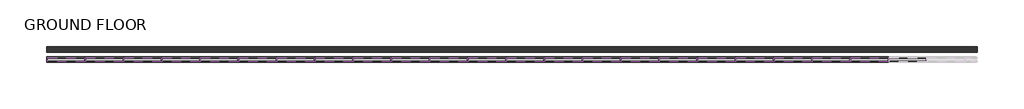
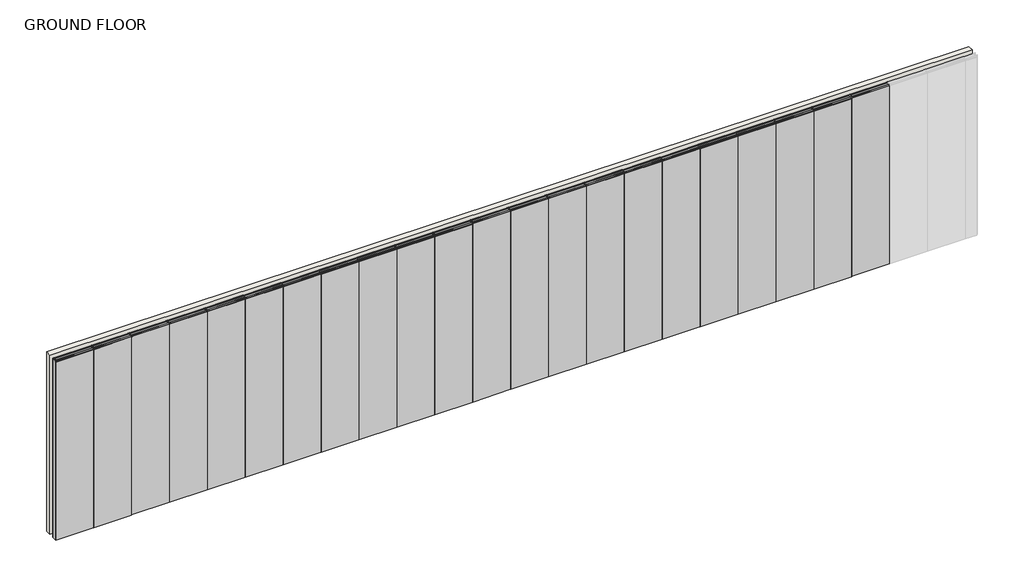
# One storey, part 1 of 2: 66 members, 22 plates, 1 wall.
"""IFC4 building model written with IfcOpenShell, lengths in millimetres."""

from ifc_helpers import new_model, si_unit, origin, origin_with_axes, place, context, project, spatial, polyline, outline, extrude, transform, mapped, element, save
from components import rectangular_mullion_stud_mullion_63mm_af775e70, rectangular_mullion_stud_mullion_63mm_2c4afd4c, rectangular_mullion_stud_mullion_63mm_ab3eab4e, rectangular_mullion_stud_mullion_63mm_08592bac, plate_2_layer_drywall_panels_2_layer_12mm_drywall_panels_e6e5b326

model = new_model("IFC4")

# Units and contexts
model_context = context("Model", 3, world=origin())
ifc_project = project(units=[si_unit("LENGTHUNIT", "METRE", prefix="MILLI")], contexts=[model_context])

# Site, building, storey
site = spatial("IfcSite", under=ifc_project)
building = spatial("IfcBuilding", under=site)
storey = spatial("IfcBuildingStorey", under=building, Name="GROUND FLOOR", Elevation=0.0)

# Members
placement = place(None, origin())
rectangular_mullion_stud_mullion_63mm_shape = rectangular_mullion_stud_mullion_63mm_af775e70(model_context)
element("IfcMember", 1, ObjectType="Rectangular Mullion : Stud Mullion - 63mm", at=placement, inside=storey, context=model_context, shape_type="MappedRepresentation", body=[
    mapped(rectangular_mullion_stud_mullion_63mm_shape, transform((61654.5186508, -19259.4010443, 0.0), x_axis=(0.0, 0.0, -1.0), y_axis=(0.0, -1.0, 0.0), z_axis=(-1.0, 0.0, 0.0))),
])
element("IfcMember", 2, ObjectType="Rectangular Mullion : Stud Mullion - 63mm", at=placement, inside=storey, context=model_context, shape_type="MappedRepresentation", body=[
    mapped(rectangular_mullion_stud_mullion_63mm_shape, transform((62254.5186511, -19259.4010443, 0.0), x_axis=(0.0, 0.0, -1.0), y_axis=(0.0, -1.0, 0.0), z_axis=(-1.0, 0.0, 0.0))),
])
element("IfcMember", 3, ObjectType="Rectangular Mullion : Stud Mullion - 63mm", at=placement, inside=storey, context=model_context, shape_type="MappedRepresentation", body=[
    mapped(rectangular_mullion_stud_mullion_63mm_shape, transform((62854.5186511, -19259.4010443, 0.0), x_axis=(0.0, 0.0, -1.0), y_axis=(0.0, -1.0, 0.0), z_axis=(-1.0, 0.0, 0.0))),
])
element("IfcMember", 4, ObjectType="Rectangular Mullion : Stud Mullion - 63mm", at=placement, inside=storey, context=model_context, shape_type="MappedRepresentation", body=[
    mapped(rectangular_mullion_stud_mullion_63mm_shape, transform((63454.5186511, -19259.4010443, 0.0), x_axis=(0.0, 0.0, -1.0), y_axis=(0.0, -1.0, 0.0), z_axis=(-1.0, 0.0, 0.0))),
])
element("IfcMember", 5, ObjectType="Rectangular Mullion : Stud Mullion - 63mm", at=placement, inside=storey, context=model_context, shape_type="MappedRepresentation", body=[
    mapped(rectangular_mullion_stud_mullion_63mm_shape, transform((64054.5186511, -19259.4010443, 0.0), x_axis=(0.0, 0.0, -1.0), y_axis=(0.0, -1.0, 0.0), z_axis=(-1.0, 0.0, 0.0))),
])
element("IfcMember", 6, ObjectType="Rectangular Mullion : Stud Mullion - 63mm", at=placement, inside=storey, context=model_context, shape_type="MappedRepresentation", body=[
    mapped(rectangular_mullion_stud_mullion_63mm_shape, transform((64654.5186511, -19259.4010443, 0.0), x_axis=(0.0, 0.0, -1.0), y_axis=(0.0, -1.0, 0.0), z_axis=(-1.0, 0.0, 0.0))),
])
element("IfcMember", 7, ObjectType="Rectangular Mullion : Stud Mullion - 63mm", at=placement, inside=storey, context=model_context, shape_type="MappedRepresentation", body=[
    mapped(rectangular_mullion_stud_mullion_63mm_shape, transform((65254.5186511, -19259.4010443, 0.0), x_axis=(0.0, 0.0, -1.0), y_axis=(0.0, -1.0, 0.0), z_axis=(-1.0, 0.0, 0.0))),
])
element("IfcMember", 8, ObjectType="Rectangular Mullion : Stud Mullion - 63mm", at=placement, inside=storey, context=model_context, shape_type="MappedRepresentation", body=[
    mapped(rectangular_mullion_stud_mullion_63mm_shape, transform((65854.5186511, -19259.4010443, 0.0), x_axis=(0.0, 0.0, -1.0), y_axis=(0.0, -1.0, 0.0), z_axis=(-1.0, 0.0, 0.0))),
])
element("IfcMember", 9, ObjectType="Rectangular Mullion : Stud Mullion - 63mm", at=placement, inside=storey, context=model_context, shape_type="MappedRepresentation", body=[
    mapped(rectangular_mullion_stud_mullion_63mm_shape, transform((66454.5186511, -19259.4010443, 0.0), x_axis=(0.0, 0.0, -1.0), y_axis=(0.0, -1.0, 0.0), z_axis=(-1.0, 0.0, 0.0))),
])
element("IfcMember", 10, ObjectType="Rectangular Mullion : Stud Mullion - 63mm", at=placement, inside=storey, context=model_context, shape_type="MappedRepresentation", body=[
    mapped(rectangular_mullion_stud_mullion_63mm_shape, transform((67054.5186511, -19259.4010443, 0.0), x_axis=(0.0, 0.0, -1.0), y_axis=(0.0, -1.0, 0.0), z_axis=(-1.0, 0.0, 0.0))),
])
element("IfcMember", 11, ObjectType="Rectangular Mullion : Stud Mullion - 63mm", at=placement, inside=storey, context=model_context, shape_type="MappedRepresentation", body=[
    mapped(rectangular_mullion_stud_mullion_63mm_shape, transform((67654.5186511, -19259.4010443, 0.0), x_axis=(0.0, 0.0, -1.0), y_axis=(0.0, -1.0, 0.0), z_axis=(-1.0, 0.0, 0.0))),
])
element("IfcMember", 12, ObjectType="Rectangular Mullion : Stud Mullion - 63mm", at=placement, inside=storey, context=model_context, shape_type="MappedRepresentation", body=[
    mapped(rectangular_mullion_stud_mullion_63mm_shape, transform((68254.5186511, -19259.4010443, 0.0), x_axis=(0.0, 0.0, -1.0), y_axis=(0.0, -1.0, 0.0), z_axis=(-1.0, 0.0, 0.0))),
])
element("IfcMember", 13, ObjectType="Rectangular Mullion : Stud Mullion - 63mm", at=placement, inside=storey, context=model_context, shape_type="MappedRepresentation", body=[
    mapped(rectangular_mullion_stud_mullion_63mm_shape, transform((68854.5186511, -19259.4010443, 0.0), x_axis=(0.0, 0.0, -1.0), y_axis=(0.0, -1.0, 0.0), z_axis=(-1.0, 0.0, 0.0))),
])
element("IfcMember", 14, ObjectType="Rectangular Mullion : Stud Mullion - 63mm", at=placement, inside=storey, context=model_context, shape_type="MappedRepresentation", body=[
    mapped(rectangular_mullion_stud_mullion_63mm_shape, transform((69454.5186511, -19259.4010443, 0.0), x_axis=(0.0, 0.0, -1.0), y_axis=(0.0, -1.0, 0.0), z_axis=(-1.0, 0.0, 0.0))),
])
element("IfcMember", 15, ObjectType="Rectangular Mullion : Stud Mullion - 63mm", at=placement, inside=storey, context=model_context, shape_type="MappedRepresentation", body=[
    mapped(rectangular_mullion_stud_mullion_63mm_shape, transform((70054.5186511, -19259.4010443, 0.0), x_axis=(0.0, 0.0, -1.0), y_axis=(0.0, -1.0, 0.0), z_axis=(-1.0, 0.0, 0.0))),
])
element("IfcMember", 16, ObjectType="Rectangular Mullion : Stud Mullion - 63mm", at=placement, inside=storey, context=model_context, shape_type="MappedRepresentation", body=[
    mapped(rectangular_mullion_stud_mullion_63mm_shape, transform((70654.5186511, -19259.4010443, 0.0), x_axis=(0.0, 0.0, -1.0), y_axis=(0.0, -1.0, 0.0), z_axis=(-1.0, 0.0, 0.0))),
])
element("IfcMember", 17, ObjectType="Rectangular Mullion : Stud Mullion - 63mm", at=placement, inside=storey, context=model_context, shape_type="MappedRepresentation", body=[
    mapped(rectangular_mullion_stud_mullion_63mm_shape, transform((71254.5186511, -19259.4010443, 0.0), x_axis=(0.0, 0.0, -1.0), y_axis=(0.0, -1.0, 0.0), z_axis=(-1.0, 0.0, 0.0))),
])
element("IfcMember", 18, ObjectType="Rectangular Mullion : Stud Mullion - 63mm", at=placement, inside=storey, context=model_context, shape_type="MappedRepresentation", body=[
    mapped(rectangular_mullion_stud_mullion_63mm_shape, transform((71854.5186511, -19259.4010443, 0.0), x_axis=(0.0, 0.0, -1.0), y_axis=(0.0, -1.0, 0.0), z_axis=(-1.0, 0.0, 0.0))),
])
element("IfcMember", 19, ObjectType="Rectangular Mullion : Stud Mullion - 63mm", at=placement, inside=storey, context=model_context, shape_type="MappedRepresentation", body=[
    mapped(rectangular_mullion_stud_mullion_63mm_shape, transform((72454.5186511, -19259.4010443, 0.0), x_axis=(0.0, 0.0, -1.0), y_axis=(0.0, -1.0, 0.0), z_axis=(-1.0, 0.0, 0.0))),
])
element("IfcMember", 20, ObjectType="Rectangular Mullion : Stud Mullion - 63mm", at=placement, inside=storey, context=model_context, shape_type="MappedRepresentation", body=[
    mapped(rectangular_mullion_stud_mullion_63mm_shape, transform((73054.5186511, -19259.4010443, 0.0), x_axis=(0.0, 0.0, -1.0), y_axis=(0.0, -1.0, 0.0), z_axis=(-1.0, 0.0, 0.0))),
])
element("IfcMember", 21, ObjectType="Rectangular Mullion : Stud Mullion - 63mm", at=placement, inside=storey, context=model_context, shape_type="MappedRepresentation", body=[
    mapped(rectangular_mullion_stud_mullion_63mm_shape, transform((73654.5186511, -19259.4010443, 0.0), x_axis=(0.0, 0.0, -1.0), y_axis=(0.0, -1.0, 0.0), z_axis=(-1.0, 0.0, 0.0))),
])
element("IfcMember", 22, ObjectType="Rectangular Mullion : Stud Mullion - 63mm", at=placement, inside=storey, context=model_context, shape_type="MappedRepresentation", body=[
    mapped(rectangular_mullion_stud_mullion_63mm_shape, transform((74254.5186511, -19259.4010443, 0.0), x_axis=(0.0, 0.0, -1.0), y_axis=(0.0, -1.0, 0.0), z_axis=(-1.0, 0.0, 0.0))),
])
element("IfcMember", 23, ObjectType="Rectangular Mullion : Stud Mullion - 63mm", at=placement, inside=storey, context=model_context, shape_type="MappedRepresentation", body=[
    mapped(rectangular_mullion_stud_mullion_63mm_shape, transform((74854.5186511, -19259.4010443, 0.0), x_axis=(0.0, 0.0, -1.0), y_axis=(0.0, -1.0, 0.0), z_axis=(-1.0, 0.0, 0.0))),
])
rectangular_mullion_stud_mullion_63mm_2_shape = rectangular_mullion_stud_mullion_63mm_2c4afd4c(model_context)
element("IfcMember", 24, ObjectType="Rectangular Mullion : Stud Mullion - 63mm", at=placement, inside=storey, context=model_context, shape_type="MappedRepresentation", body=[
    mapped(rectangular_mullion_stud_mullion_63mm_2_shape, transform((61635.5186508, -19259.4010443, 3000.0), x_axis=(-1.0, 0.0, 0.0), y_axis=(0.0, -1.0, 0.0), z_axis=(0.0, 0.0, 1.0))),
])
rectangular_mullion_stud_mullion_63mm_3_shape = rectangular_mullion_stud_mullion_63mm_ab3eab4e(model_context)
element("IfcMember", 25, ObjectType="Rectangular Mullion : Stud Mullion - 63mm", at=placement, inside=storey, context=model_context, shape_type="MappedRepresentation", body=[
    mapped(rectangular_mullion_stud_mullion_63mm_3_shape, transform((62235.5186511, -19259.4010443, 3000.0), x_axis=(0.0, 0.0, 1.0), y_axis=(0.0, -1.0, 0.0), z_axis=(1.0, 0.0, 0.0))),
])
element("IfcMember", 26, ObjectType="Rectangular Mullion : Stud Mullion - 63mm", at=placement, inside=storey, context=model_context, shape_type="MappedRepresentation", body=[
    mapped(rectangular_mullion_stud_mullion_63mm_3_shape, transform((62835.5186511, -19259.4010443, 3000.0), x_axis=(0.0, 0.0, 1.0), y_axis=(0.0, -1.0, 0.0), z_axis=(1.0, 0.0, 0.0))),
])
element("IfcMember", 27, ObjectType="Rectangular Mullion : Stud Mullion - 63mm", at=placement, inside=storey, context=model_context, shape_type="MappedRepresentation", body=[
    mapped(rectangular_mullion_stud_mullion_63mm_3_shape, transform((63435.5186511, -19259.4010443, 3000.0), x_axis=(0.0, 0.0, 1.0), y_axis=(0.0, -1.0, 0.0), z_axis=(1.0, 0.0, 0.0))),
])
element("IfcMember", 28, ObjectType="Rectangular Mullion : Stud Mullion - 63mm", at=placement, inside=storey, context=model_context, shape_type="MappedRepresentation", body=[
    mapped(rectangular_mullion_stud_mullion_63mm_3_shape, transform((64035.5186511, -19259.4010443, 3000.0), x_axis=(0.0, 0.0, 1.0), y_axis=(0.0, -1.0, 0.0), z_axis=(1.0, 0.0, 0.0))),
])
element("IfcMember", 29, ObjectType="Rectangular Mullion : Stud Mullion - 63mm", at=placement, inside=storey, context=model_context, shape_type="MappedRepresentation", body=[
    mapped(rectangular_mullion_stud_mullion_63mm_3_shape, transform((64635.5186511, -19259.4010443, 3000.0), x_axis=(0.0, 0.0, 1.0), y_axis=(0.0, -1.0, 0.0), z_axis=(1.0, 0.0, 0.0))),
])
element("IfcMember", 30, ObjectType="Rectangular Mullion : Stud Mullion - 63mm", at=placement, inside=storey, context=model_context, shape_type="MappedRepresentation", body=[
    mapped(rectangular_mullion_stud_mullion_63mm_3_shape, transform((65235.5186511, -19259.4010443, 3000.0), x_axis=(0.0, 0.0, 1.0), y_axis=(0.0, -1.0, 0.0), z_axis=(1.0, 0.0, 0.0))),
])
element("IfcMember", 31, ObjectType="Rectangular Mullion : Stud Mullion - 63mm", at=placement, inside=storey, context=model_context, shape_type="MappedRepresentation", body=[
    mapped(rectangular_mullion_stud_mullion_63mm_3_shape, transform((65835.5186511, -19259.4010443, 3000.0), x_axis=(0.0, 0.0, 1.0), y_axis=(0.0, -1.0, 0.0), z_axis=(1.0, 0.0, 0.0))),
])
element("IfcMember", 32, ObjectType="Rectangular Mullion : Stud Mullion - 63mm", at=placement, inside=storey, context=model_context, shape_type="MappedRepresentation", body=[
    mapped(rectangular_mullion_stud_mullion_63mm_3_shape, transform((66435.5186511, -19259.4010443, 3000.0), x_axis=(0.0, 0.0, 1.0), y_axis=(0.0, -1.0, 0.0), z_axis=(1.0, 0.0, 0.0))),
])
element("IfcMember", 33, ObjectType="Rectangular Mullion : Stud Mullion - 63mm", at=placement, inside=storey, context=model_context, shape_type="MappedRepresentation", body=[
    mapped(rectangular_mullion_stud_mullion_63mm_3_shape, transform((67035.5186511, -19259.4010443, 3000.0), x_axis=(0.0, 0.0, 1.0), y_axis=(0.0, -1.0, 0.0), z_axis=(1.0, 0.0, 0.0))),
])
element("IfcMember", 34, ObjectType="Rectangular Mullion : Stud Mullion - 63mm", at=placement, inside=storey, context=model_context, shape_type="MappedRepresentation", body=[
    mapped(rectangular_mullion_stud_mullion_63mm_3_shape, transform((67635.5186511, -19259.4010443, 3000.0), x_axis=(0.0, 0.0, 1.0), y_axis=(0.0, -1.0, 0.0), z_axis=(1.0, 0.0, 0.0))),
])
element("IfcMember", 35, ObjectType="Rectangular Mullion : Stud Mullion - 63mm", at=placement, inside=storey, context=model_context, shape_type="MappedRepresentation", body=[
    mapped(rectangular_mullion_stud_mullion_63mm_3_shape, transform((68235.5186511, -19259.4010443, 3000.0), x_axis=(0.0, 0.0, 1.0), y_axis=(0.0, -1.0, 0.0), z_axis=(1.0, 0.0, 0.0))),
])
element("IfcMember", 36, ObjectType="Rectangular Mullion : Stud Mullion - 63mm", at=placement, inside=storey, context=model_context, shape_type="MappedRepresentation", body=[
    mapped(rectangular_mullion_stud_mullion_63mm_3_shape, transform((68835.5186511, -19259.4010443, 3000.0), x_axis=(0.0, 0.0, 1.0), y_axis=(0.0, -1.0, 0.0), z_axis=(1.0, 0.0, 0.0))),
])
element("IfcMember", 37, ObjectType="Rectangular Mullion : Stud Mullion - 63mm", at=placement, inside=storey, context=model_context, shape_type="MappedRepresentation", body=[
    mapped(rectangular_mullion_stud_mullion_63mm_3_shape, transform((69435.5186511, -19259.4010443, 3000.0), x_axis=(0.0, 0.0, 1.0), y_axis=(0.0, -1.0, 0.0), z_axis=(1.0, 0.0, 0.0))),
])
element("IfcMember", 38, ObjectType="Rectangular Mullion : Stud Mullion - 63mm", at=placement, inside=storey, context=model_context, shape_type="MappedRepresentation", body=[
    mapped(rectangular_mullion_stud_mullion_63mm_3_shape, transform((70035.5186511, -19259.4010443, 3000.0), x_axis=(0.0, 0.0, 1.0), y_axis=(0.0, -1.0, 0.0), z_axis=(1.0, 0.0, 0.0))),
])
element("IfcMember", 39, ObjectType="Rectangular Mullion : Stud Mullion - 63mm", at=placement, inside=storey, context=model_context, shape_type="MappedRepresentation", body=[
    mapped(rectangular_mullion_stud_mullion_63mm_3_shape, transform((70635.5186511, -19259.4010443, 3000.0), x_axis=(0.0, 0.0, 1.0), y_axis=(0.0, -1.0, 0.0), z_axis=(1.0, 0.0, 0.0))),
])
element("IfcMember", 40, ObjectType="Rectangular Mullion : Stud Mullion - 63mm", at=placement, inside=storey, context=model_context, shape_type="MappedRepresentation", body=[
    mapped(rectangular_mullion_stud_mullion_63mm_3_shape, transform((71235.5186511, -19259.4010443, 3000.0), x_axis=(0.0, 0.0, 1.0), y_axis=(0.0, -1.0, 0.0), z_axis=(1.0, 0.0, 0.0))),
])
element("IfcMember", 41, ObjectType="Rectangular Mullion : Stud Mullion - 63mm", at=placement, inside=storey, context=model_context, shape_type="MappedRepresentation", body=[
    mapped(rectangular_mullion_stud_mullion_63mm_3_shape, transform((71835.5186511, -19259.4010443, 3000.0), x_axis=(0.0, 0.0, 1.0), y_axis=(0.0, -1.0, 0.0), z_axis=(1.0, 0.0, 0.0))),
])
element("IfcMember", 42, ObjectType="Rectangular Mullion : Stud Mullion - 63mm", at=placement, inside=storey, context=model_context, shape_type="MappedRepresentation", body=[
    mapped(rectangular_mullion_stud_mullion_63mm_3_shape, transform((72435.5186511, -19259.4010443, 3000.0), x_axis=(0.0, 0.0, 1.0), y_axis=(0.0, -1.0, 0.0), z_axis=(1.0, 0.0, 0.0))),
])
element("IfcMember", 43, ObjectType="Rectangular Mullion : Stud Mullion - 63mm", at=placement, inside=storey, context=model_context, shape_type="MappedRepresentation", body=[
    mapped(rectangular_mullion_stud_mullion_63mm_3_shape, transform((73035.5186511, -19259.4010443, 3000.0), x_axis=(0.0, 0.0, 1.0), y_axis=(0.0, -1.0, 0.0), z_axis=(1.0, 0.0, 0.0))),
])
element("IfcMember", 44, ObjectType="Rectangular Mullion : Stud Mullion - 63mm", at=placement, inside=storey, context=model_context, shape_type="MappedRepresentation", body=[
    mapped(rectangular_mullion_stud_mullion_63mm_3_shape, transform((73635.5186511, -19259.4010443, 3000.0), x_axis=(0.0, 0.0, 1.0), y_axis=(0.0, -1.0, 0.0), z_axis=(1.0, 0.0, 0.0))),
])
element("IfcMember", 45, ObjectType="Rectangular Mullion : Stud Mullion - 63mm", at=placement, inside=storey, context=model_context, shape_type="MappedRepresentation", body=[
    mapped(rectangular_mullion_stud_mullion_63mm_3_shape, transform((74235.5186511, -19259.4010443, 3000.0), x_axis=(0.0, 0.0, 1.0), y_axis=(0.0, -1.0, 0.0), z_axis=(1.0, 0.0, 0.0))),
])
element("IfcMember", 46, ObjectType="Rectangular Mullion : Stud Mullion - 63mm", at=placement, inside=storey, context=model_context, shape_type="MappedRepresentation", body=[
    mapped(rectangular_mullion_stud_mullion_63mm_3_shape, transform((74835.5186511, -19259.4010443, 3000.0), x_axis=(0.0, 0.0, 1.0), y_axis=(0.0, -1.0, 0.0), z_axis=(1.0, 0.0, 0.0))),
])
rectangular_mullion_stud_mullion_63mm_4_shape = rectangular_mullion_stud_mullion_63mm_08592bac(model_context)
element("IfcMember", 47, ObjectType="Rectangular Mullion : Stud Mullion - 63mm", at=placement, inside=storey, context=model_context, shape_type="MappedRepresentation", body=[
    mapped(rectangular_mullion_stud_mullion_63mm_4_shape, transform((62245.0186511, -19259.4010443, 0.0), x_axis=(1.0, 0.0, 0.0), y_axis=(0.0, -1.0, 0.0), z_axis=(0.0, 0.0, -1.0))),
])
element("IfcMember", 48, ObjectType="Rectangular Mullion : Stud Mullion - 63mm", at=placement, inside=storey, context=model_context, shape_type="MappedRepresentation", body=[
    mapped(rectangular_mullion_stud_mullion_63mm_4_shape, transform((62845.0186511, -19259.4010443, 0.0), x_axis=(1.0, 0.0, 0.0), y_axis=(0.0, -1.0, 0.0), z_axis=(0.0, 0.0, -1.0))),
])
element("IfcMember", 49, ObjectType="Rectangular Mullion : Stud Mullion - 63mm", at=placement, inside=storey, context=model_context, shape_type="MappedRepresentation", body=[
    mapped(rectangular_mullion_stud_mullion_63mm_4_shape, transform((63445.0186511, -19259.4010443, 0.0), x_axis=(1.0, 0.0, 0.0), y_axis=(0.0, -1.0, 0.0), z_axis=(0.0, 0.0, -1.0))),
])
element("IfcMember", 50, ObjectType="Rectangular Mullion : Stud Mullion - 63mm", at=placement, inside=storey, context=model_context, shape_type="MappedRepresentation", body=[
    mapped(rectangular_mullion_stud_mullion_63mm_4_shape, transform((64045.0186511, -19259.4010443, 0.0), x_axis=(1.0, 0.0, 0.0), y_axis=(0.0, -1.0, 0.0), z_axis=(0.0, 0.0, -1.0))),
])
element("IfcMember", 51, ObjectType="Rectangular Mullion : Stud Mullion - 63mm", at=placement, inside=storey, context=model_context, shape_type="MappedRepresentation", body=[
    mapped(rectangular_mullion_stud_mullion_63mm_4_shape, transform((64645.0186511, -19259.4010443, 0.0), x_axis=(1.0, 0.0, 0.0), y_axis=(0.0, -1.0, 0.0), z_axis=(0.0, 0.0, -1.0))),
])
element("IfcMember", 52, ObjectType="Rectangular Mullion : Stud Mullion - 63mm", at=placement, inside=storey, context=model_context, shape_type="MappedRepresentation", body=[
    mapped(rectangular_mullion_stud_mullion_63mm_4_shape, transform((65245.0186511, -19259.4010443, 0.0), x_axis=(1.0, 0.0, 0.0), y_axis=(0.0, -1.0, 0.0), z_axis=(0.0, 0.0, -1.0))),
])
element("IfcMember", 53, ObjectType="Rectangular Mullion : Stud Mullion - 63mm", at=placement, inside=storey, context=model_context, shape_type="MappedRepresentation", body=[
    mapped(rectangular_mullion_stud_mullion_63mm_4_shape, transform((65845.0186511, -19259.4010443, 0.0), x_axis=(1.0, 0.0, 0.0), y_axis=(0.0, -1.0, 0.0), z_axis=(0.0, 0.0, -1.0))),
])
element("IfcMember", 54, ObjectType="Rectangular Mullion : Stud Mullion - 63mm", at=placement, inside=storey, context=model_context, shape_type="MappedRepresentation", body=[
    mapped(rectangular_mullion_stud_mullion_63mm_4_shape, transform((66445.0186511, -19259.4010443, 0.0), x_axis=(1.0, 0.0, 0.0), y_axis=(0.0, -1.0, 0.0), z_axis=(0.0, 0.0, -1.0))),
])
element("IfcMember", 55, ObjectType="Rectangular Mullion : Stud Mullion - 63mm", at=placement, inside=storey, context=model_context, shape_type="MappedRepresentation", body=[
    mapped(rectangular_mullion_stud_mullion_63mm_4_shape, transform((67045.0186511, -19259.4010443, 0.0), x_axis=(1.0, 0.0, 0.0), y_axis=(0.0, -1.0, 0.0), z_axis=(0.0, 0.0, -1.0))),
])
element("IfcMember", 56, ObjectType="Rectangular Mullion : Stud Mullion - 63mm", at=placement, inside=storey, context=model_context, shape_type="MappedRepresentation", body=[
    mapped(rectangular_mullion_stud_mullion_63mm_4_shape, transform((67645.0186511, -19259.4010443, 0.0), x_axis=(1.0, 0.0, 0.0), y_axis=(0.0, -1.0, 0.0), z_axis=(0.0, 0.0, -1.0))),
])
element("IfcMember", 57, ObjectType="Rectangular Mullion : Stud Mullion - 63mm", at=placement, inside=storey, context=model_context, shape_type="MappedRepresentation", body=[
    mapped(rectangular_mullion_stud_mullion_63mm_4_shape, transform((68245.0186511, -19259.4010443, 0.0), x_axis=(1.0, 0.0, 0.0), y_axis=(0.0, -1.0, 0.0), z_axis=(0.0, 0.0, -1.0))),
])
element("IfcMember", 58, ObjectType="Rectangular Mullion : Stud Mullion - 63mm", at=placement, inside=storey, context=model_context, shape_type="MappedRepresentation", body=[
    mapped(rectangular_mullion_stud_mullion_63mm_4_shape, transform((68845.0186511, -19259.4010443, 0.0), x_axis=(1.0, 0.0, 0.0), y_axis=(0.0, -1.0, 0.0), z_axis=(0.0, 0.0, -1.0))),
])
element("IfcMember", 59, ObjectType="Rectangular Mullion : Stud Mullion - 63mm", at=placement, inside=storey, context=model_context, shape_type="MappedRepresentation", body=[
    mapped(rectangular_mullion_stud_mullion_63mm_4_shape, transform((69445.0186511, -19259.4010443, 0.0), x_axis=(1.0, 0.0, 0.0), y_axis=(0.0, -1.0, 0.0), z_axis=(0.0, 0.0, -1.0))),
])
element("IfcMember", 60, ObjectType="Rectangular Mullion : Stud Mullion - 63mm", at=placement, inside=storey, context=model_context, shape_type="MappedRepresentation", body=[
    mapped(rectangular_mullion_stud_mullion_63mm_4_shape, transform((70045.0186511, -19259.4010443, 0.0), x_axis=(1.0, 0.0, 0.0), y_axis=(0.0, -1.0, 0.0), z_axis=(0.0, 0.0, -1.0))),
])
element("IfcMember", 61, ObjectType="Rectangular Mullion : Stud Mullion - 63mm", at=placement, inside=storey, context=model_context, shape_type="MappedRepresentation", body=[
    mapped(rectangular_mullion_stud_mullion_63mm_4_shape, transform((70645.0186511, -19259.4010443, 0.0), x_axis=(1.0, 0.0, 0.0), y_axis=(0.0, -1.0, 0.0), z_axis=(0.0, 0.0, -1.0))),
])
element("IfcMember", 62, ObjectType="Rectangular Mullion : Stud Mullion - 63mm", at=placement, inside=storey, context=model_context, shape_type="MappedRepresentation", body=[
    mapped(rectangular_mullion_stud_mullion_63mm_4_shape, transform((71245.0186511, -19259.4010443, 0.0), x_axis=(1.0, 0.0, 0.0), y_axis=(0.0, -1.0, 0.0), z_axis=(0.0, 0.0, -1.0))),
])
element("IfcMember", 63, ObjectType="Rectangular Mullion : Stud Mullion - 63mm", at=placement, inside=storey, context=model_context, shape_type="MappedRepresentation", body=[
    mapped(rectangular_mullion_stud_mullion_63mm_4_shape, transform((71845.0186511, -19259.4010443, 0.0), x_axis=(1.0, 0.0, 0.0), y_axis=(0.0, -1.0, 0.0), z_axis=(0.0, 0.0, -1.0))),
])
element("IfcMember", 64, ObjectType="Rectangular Mullion : Stud Mullion - 63mm", at=placement, inside=storey, context=model_context, shape_type="MappedRepresentation", body=[
    mapped(rectangular_mullion_stud_mullion_63mm_4_shape, transform((72445.0186511, -19259.4010443, 0.0), x_axis=(1.0, 0.0, 0.0), y_axis=(0.0, -1.0, 0.0), z_axis=(0.0, 0.0, -1.0))),
])
element("IfcMember", 65, ObjectType="Rectangular Mullion : Stud Mullion - 63mm", at=placement, inside=storey, context=model_context, shape_type="MappedRepresentation", body=[
    mapped(rectangular_mullion_stud_mullion_63mm_4_shape, transform((73045.0186511, -19259.4010443, 0.0), x_axis=(1.0, 0.0, 0.0), y_axis=(0.0, -1.0, 0.0), z_axis=(0.0, 0.0, -1.0))),
])
element("IfcMember", 66, ObjectType="Rectangular Mullion : Stud Mullion - 63mm", at=placement, inside=storey, context=model_context, shape_type="MappedRepresentation", body=[
    mapped(rectangular_mullion_stud_mullion_63mm_4_shape, transform((73645.0186511, -19259.4010443, 0.0), x_axis=(1.0, 0.0, 0.0), y_axis=(0.0, -1.0, 0.0), z_axis=(0.0, 0.0, -1.0))),
])

# Plates
plate_2_layer_drywall_panels_2_layer_12mm_drywall_panels_shape = plate_2_layer_drywall_panels_2_layer_12mm_drywall_panels_e6e5b326(model_context)
element("IfcPlate", 67, ObjectType="2 Layer - Drywall Panels : 2 Layer - 12mm Drywall Panels 89mm", at=placement, inside=storey, context=model_context, shape_type="MappedRepresentation", body=[
    mapped(plate_2_layer_drywall_panels_2_layer_12mm_drywall_panels_shape, transform((61936.318651, -19259.4010443, 1.6), x_axis=(1.0, 0.0, 0.0), y_axis=(0.0, 1.0, 0.0), z_axis=(0.0, 0.0, 1.0))),
])
element("IfcPlate", 68, ObjectType="2 Layer - Drywall Panels : 2 Layer - 12mm Drywall Panels 89mm", at=placement, inside=storey, context=model_context, shape_type="MappedRepresentation", body=[
    mapped(plate_2_layer_drywall_panels_2_layer_12mm_drywall_panels_shape, transform((62536.3186511, -19259.4010443, 1.6), x_axis=(1.0, 0.0, 0.0), y_axis=(0.0, 1.0, 0.0), z_axis=(0.0, 0.0, 1.0))),
])
element("IfcPlate", 69, ObjectType="2 Layer - Drywall Panels : 2 Layer - 12mm Drywall Panels 89mm", at=placement, inside=storey, context=model_context, shape_type="MappedRepresentation", body=[
    mapped(plate_2_layer_drywall_panels_2_layer_12mm_drywall_panels_shape, transform((63136.3186511, -19259.4010443, 1.6), x_axis=(1.0, 0.0, 0.0), y_axis=(0.0, 1.0, 0.0), z_axis=(0.0, 0.0, 1.0))),
])
element("IfcPlate", 70, ObjectType="2 Layer - Drywall Panels : 2 Layer - 12mm Drywall Panels 89mm", at=placement, inside=storey, context=model_context, shape_type="MappedRepresentation", body=[
    mapped(plate_2_layer_drywall_panels_2_layer_12mm_drywall_panels_shape, transform((63736.3186511, -19259.4010443, 1.6), x_axis=(1.0, 0.0, 0.0), y_axis=(0.0, 1.0, 0.0), z_axis=(0.0, 0.0, 1.0))),
])
element("IfcPlate", 71, ObjectType="2 Layer - Drywall Panels : 2 Layer - 12mm Drywall Panels 89mm", at=placement, inside=storey, context=model_context, shape_type="MappedRepresentation", body=[
    mapped(plate_2_layer_drywall_panels_2_layer_12mm_drywall_panels_shape, transform((64336.3186511, -19259.4010443, 1.6), x_axis=(1.0, 0.0, 0.0), y_axis=(0.0, 1.0, 0.0), z_axis=(0.0, 0.0, 1.0))),
])
element("IfcPlate", 72, ObjectType="2 Layer - Drywall Panels : 2 Layer - 12mm Drywall Panels 89mm", at=placement, inside=storey, context=model_context, shape_type="MappedRepresentation", body=[
    mapped(plate_2_layer_drywall_panels_2_layer_12mm_drywall_panels_shape, transform((64936.3186511, -19259.4010443, 1.6), x_axis=(1.0, 0.0, 0.0), y_axis=(0.0, 1.0, 0.0), z_axis=(0.0, 0.0, 1.0))),
])
element("IfcPlate", 73, ObjectType="2 Layer - Drywall Panels : 2 Layer - 12mm Drywall Panels 89mm", at=placement, inside=storey, context=model_context, shape_type="MappedRepresentation", body=[
    mapped(plate_2_layer_drywall_panels_2_layer_12mm_drywall_panels_shape, transform((65536.3186511, -19259.4010443, 1.6), x_axis=(1.0, 0.0, 0.0), y_axis=(0.0, 1.0, 0.0), z_axis=(0.0, 0.0, 1.0))),
])
element("IfcPlate", 74, ObjectType="2 Layer - Drywall Panels : 2 Layer - 12mm Drywall Panels 89mm", at=placement, inside=storey, context=model_context, shape_type="MappedRepresentation", body=[
    mapped(plate_2_layer_drywall_panels_2_layer_12mm_drywall_panels_shape, transform((66136.3186511, -19259.4010443, 1.6), x_axis=(1.0, 0.0, 0.0), y_axis=(0.0, 1.0, 0.0), z_axis=(0.0, 0.0, 1.0))),
])
element("IfcPlate", 75, ObjectType="2 Layer - Drywall Panels : 2 Layer - 12mm Drywall Panels 89mm", at=placement, inside=storey, context=model_context, shape_type="MappedRepresentation", body=[
    mapped(plate_2_layer_drywall_panels_2_layer_12mm_drywall_panels_shape, transform((66736.3186511, -19259.4010443, 1.6), x_axis=(1.0, 0.0, 0.0), y_axis=(0.0, 1.0, 0.0), z_axis=(0.0, 0.0, 1.0))),
])
element("IfcPlate", 76, ObjectType="2 Layer - Drywall Panels : 2 Layer - 12mm Drywall Panels 89mm", at=placement, inside=storey, context=model_context, shape_type="MappedRepresentation", body=[
    mapped(plate_2_layer_drywall_panels_2_layer_12mm_drywall_panels_shape, transform((67336.3186511, -19259.4010443, 1.6), x_axis=(1.0, 0.0, 0.0), y_axis=(0.0, 1.0, 0.0), z_axis=(0.0, 0.0, 1.0))),
])
element("IfcPlate", 77, ObjectType="2 Layer - Drywall Panels : 2 Layer - 12mm Drywall Panels 89mm", at=placement, inside=storey, context=model_context, shape_type="MappedRepresentation", body=[
    mapped(plate_2_layer_drywall_panels_2_layer_12mm_drywall_panels_shape, transform((67936.3186511, -19259.4010443, 1.6), x_axis=(1.0, 0.0, 0.0), y_axis=(0.0, 1.0, 0.0), z_axis=(0.0, 0.0, 1.0))),
])
element("IfcPlate", 78, ObjectType="2 Layer - Drywall Panels : 2 Layer - 12mm Drywall Panels 89mm", at=placement, inside=storey, context=model_context, shape_type="MappedRepresentation", body=[
    mapped(plate_2_layer_drywall_panels_2_layer_12mm_drywall_panels_shape, transform((68536.3186511, -19259.4010443, 1.6), x_axis=(1.0, 0.0, 0.0), y_axis=(0.0, 1.0, 0.0), z_axis=(0.0, 0.0, 1.0))),
])
element("IfcPlate", 79, ObjectType="2 Layer - Drywall Panels : 2 Layer - 12mm Drywall Panels 89mm", at=placement, inside=storey, context=model_context, shape_type="MappedRepresentation", body=[
    mapped(plate_2_layer_drywall_panels_2_layer_12mm_drywall_panels_shape, transform((69136.3186511, -19259.4010443, 1.6), x_axis=(1.0, 0.0, 0.0), y_axis=(0.0, 1.0, 0.0), z_axis=(0.0, 0.0, 1.0))),
])
element("IfcPlate", 80, ObjectType="2 Layer - Drywall Panels : 2 Layer - 12mm Drywall Panels 89mm", at=placement, inside=storey, context=model_context, shape_type="MappedRepresentation", body=[
    mapped(plate_2_layer_drywall_panels_2_layer_12mm_drywall_panels_shape, transform((69736.3186511, -19259.4010443, 1.6), x_axis=(1.0, 0.0, 0.0), y_axis=(0.0, 1.0, 0.0), z_axis=(0.0, 0.0, 1.0))),
])
element("IfcPlate", 81, ObjectType="2 Layer - Drywall Panels : 2 Layer - 12mm Drywall Panels 89mm", at=placement, inside=storey, context=model_context, shape_type="MappedRepresentation", body=[
    mapped(plate_2_layer_drywall_panels_2_layer_12mm_drywall_panels_shape, transform((70336.3186511, -19259.4010443, 1.6), x_axis=(1.0, 0.0, 0.0), y_axis=(0.0, 1.0, 0.0), z_axis=(0.0, 0.0, 1.0))),
])
element("IfcPlate", 82, ObjectType="2 Layer - Drywall Panels : 2 Layer - 12mm Drywall Panels 89mm", at=placement, inside=storey, context=model_context, shape_type="MappedRepresentation", body=[
    mapped(plate_2_layer_drywall_panels_2_layer_12mm_drywall_panels_shape, transform((70936.3186511, -19259.4010443, 1.6), x_axis=(1.0, 0.0, 0.0), y_axis=(0.0, 1.0, 0.0), z_axis=(0.0, 0.0, 1.0))),
])
element("IfcPlate", 83, ObjectType="2 Layer - Drywall Panels : 2 Layer - 12mm Drywall Panels 89mm", at=placement, inside=storey, context=model_context, shape_type="MappedRepresentation", body=[
    mapped(plate_2_layer_drywall_panels_2_layer_12mm_drywall_panels_shape, transform((71536.3186511, -19259.4010443, 1.6), x_axis=(1.0, 0.0, 0.0), y_axis=(0.0, 1.0, 0.0), z_axis=(0.0, 0.0, 1.0))),
])
element("IfcPlate", 84, ObjectType="2 Layer - Drywall Panels : 2 Layer - 12mm Drywall Panels 89mm", at=placement, inside=storey, context=model_context, shape_type="MappedRepresentation", body=[
    mapped(plate_2_layer_drywall_panels_2_layer_12mm_drywall_panels_shape, transform((72136.3186511, -19259.4010443, 1.6), x_axis=(1.0, 0.0, 0.0), y_axis=(0.0, 1.0, 0.0), z_axis=(0.0, 0.0, 1.0))),
])
element("IfcPlate", 85, ObjectType="2 Layer - Drywall Panels : 2 Layer - 12mm Drywall Panels 89mm", at=placement, inside=storey, context=model_context, shape_type="MappedRepresentation", body=[
    mapped(plate_2_layer_drywall_panels_2_layer_12mm_drywall_panels_shape, transform((72736.3186511, -19259.4010443, 1.6), x_axis=(1.0, 0.0, 0.0), y_axis=(0.0, 1.0, 0.0), z_axis=(0.0, 0.0, 1.0))),
])
element("IfcPlate", 86, ObjectType="2 Layer - Drywall Panels : 2 Layer - 12mm Drywall Panels 89mm", at=placement, inside=storey, context=model_context, shape_type="MappedRepresentation", body=[
    mapped(plate_2_layer_drywall_panels_2_layer_12mm_drywall_panels_shape, transform((73336.3186511, -19259.4010443, 1.6), x_axis=(1.0, 0.0, 0.0), y_axis=(0.0, 1.0, 0.0), z_axis=(0.0, 0.0, 1.0))),
])
element("IfcPlate", 87, ObjectType="2 Layer - Drywall Panels : 2 Layer - 12mm Drywall Panels 89mm", at=placement, inside=storey, context=model_context, shape_type="MappedRepresentation", body=[
    mapped(plate_2_layer_drywall_panels_2_layer_12mm_drywall_panels_shape, transform((73936.3186511, -19259.4010443, 1.6), x_axis=(1.0, 0.0, 0.0), y_axis=(0.0, 1.0, 0.0), z_axis=(0.0, 0.0, 1.0))),
])
element("IfcPlate", 88, ObjectType="2 Layer - Drywall Panels : 2 Layer - 12mm Drywall Panels 89mm", at=placement, inside=storey, context=model_context, shape_type="MappedRepresentation", body=[
    mapped(plate_2_layer_drywall_panels_2_layer_12mm_drywall_panels_shape, transform((74536.3186511, -19259.4010443, 1.6), x_axis=(1.0, 0.0, 0.0), y_axis=(0.0, 1.0, 0.0), z_axis=(0.0, 0.0, 1.0))),
])

# Wall
element("IfcWall", 89, ObjectType="PW05 - JUMBO DryWALL 63/30 (Insulated)", at=placement, inside=storey, context=model_context, shape_type="SweptSolid", body=[
    extrude(outline(polyline([(76235.5186508, -19143.9010443), (61635.5186508, -19143.9010443), (61635.5186508, -19054.9010443), (76235.5186508, -19054.9010443), (76235.5186508, -19143.9010443)])), origin_with_axes(), (0.0, 0.0, 1.0), 3000.0),
])

save(model, "model.ifc")
